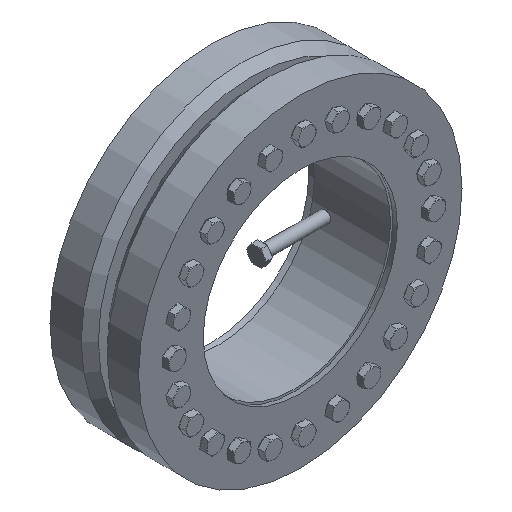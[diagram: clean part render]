
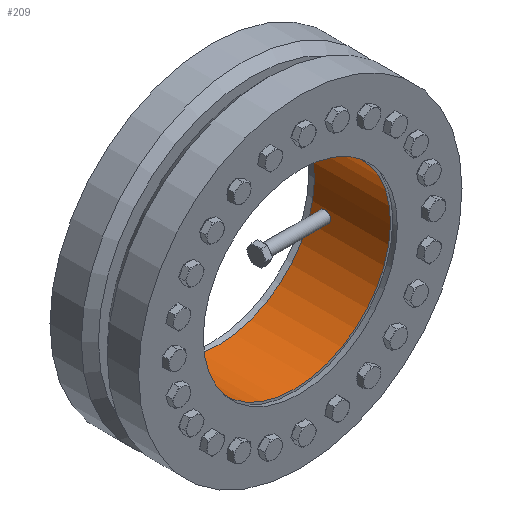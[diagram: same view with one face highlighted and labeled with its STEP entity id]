
A CAD part, isometric view. The second image highlights one B-rep face of the part: STEP entity #209.
In plain terms, the highlighted cylindrical face has radius 170 mm (diameter 340 mm), a partial arc.
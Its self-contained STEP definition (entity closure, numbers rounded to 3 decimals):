
#209 = ADVANCED_FACE( '', ( #581 ), #582, .F. );
#581 = FACE_OUTER_BOUND( '', #1010, .T. );
#582 = CYLINDRICAL_SURFACE( '', #1011, 170. );
#1010 = EDGE_LOOP( '', ( #1623, #1624, #1625, #1626 ) );
#1011 = AXIS2_PLACEMENT_3D( '', #1627, #1628, #1629 );
#1623 = ORIENTED_EDGE( '', *, *, #1984, .T. );
#1624 = ORIENTED_EDGE( '', *, *, #1906, .T. );
#1625 = ORIENTED_EDGE( '', *, *, #1824, .F. );
#1626 = ORIENTED_EDGE( '', *, *, #1914, .F. );
#1627 = CARTESIAN_POINT( '', ( 0., -60., 0. ) );
#1628 = DIRECTION( '', ( 0., 1., 0. ) );
#1629 = DIRECTION( '', ( 0., 0., -1. ) );
#1824 = EDGE_CURVE( '', #2093, #2094, #2095, .T. );
#1906 = EDGE_CURVE( '', #2233, #2094, #2247, .F. );
#1914 = EDGE_CURVE( '', #2258, #2093, #2259, .F. );
#1984 = EDGE_CURVE( '', #2258, #2233, #2367, .T. );
#2093 = VERTEX_POINT( '', #2604 );
#2094 = VERTEX_POINT( '', #2605 );
#2095 = CIRCLE( '', #2606, 170. );
#2233 = VERTEX_POINT( '', #2749 );
#2247 = LINE( '', #2775, #2776 );
#2258 = VERTEX_POINT( '', #2787 );
#2259 = LINE( '', #2788, #2789 );
#2367 = CIRCLE( '', #2914, 170. );
#2604 = CARTESIAN_POINT( '', ( -7.8, 67., 169.821 ) );
#2605 = CARTESIAN_POINT( '', ( 7.8, 67., 169.821 ) );
#2606 = AXIS2_PLACEMENT_3D( '', #3028, #3029, #3030 );
#2749 = CARTESIAN_POINT( '', ( 7.8, -67., 169.821 ) );
#2775 = CARTESIAN_POINT( '', ( 7.8, -60., 169.821 ) );
#2776 = VECTOR( '', #3219, 1000. );
#2787 = CARTESIAN_POINT( '', ( -7.8, -67., 169.821 ) );
#2788 = CARTESIAN_POINT( '', ( -7.8, -60., 169.821 ) );
#2789 = VECTOR( '', #3229, 1000. );
#2914 = AXIS2_PLACEMENT_3D( '', #3340, #3341, #3342 );
#3028 = CARTESIAN_POINT( '', ( 0., 67., 0. ) );
#3029 = DIRECTION( '', ( 0., -1., 0. ) );
#3030 = DIRECTION( '', ( 0., 0., -1. ) );
#3219 = DIRECTION( '', ( 0., -1., 0. ) );
#3229 = DIRECTION( '', ( 0., -1., 0. ) );
#3340 = CARTESIAN_POINT( '', ( 0., -67., 0. ) );
#3341 = DIRECTION( '', ( 0., -1., 0. ) );
#3342 = DIRECTION( '', ( 0., 0., -1. ) );
